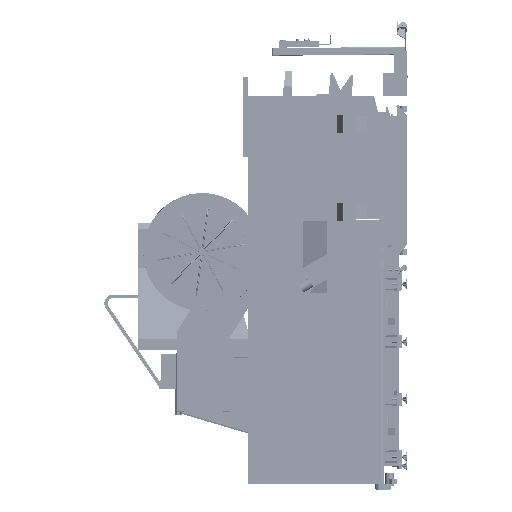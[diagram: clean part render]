
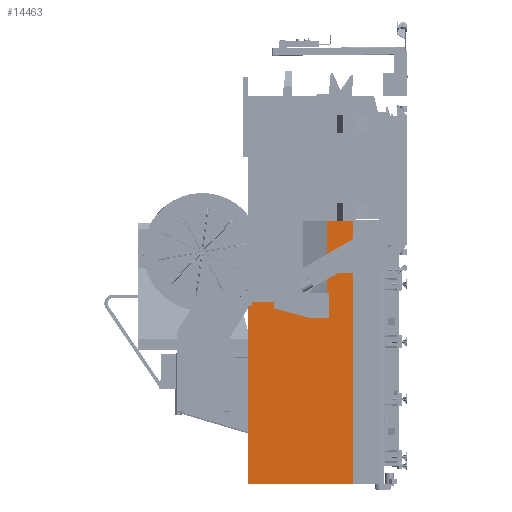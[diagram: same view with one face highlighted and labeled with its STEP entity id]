
A CAD part, left-side view. The second image highlights one B-rep face of the part: STEP entity #14463.
In plain terms, the highlighted planar face has unit normal (-1, 0, 0).
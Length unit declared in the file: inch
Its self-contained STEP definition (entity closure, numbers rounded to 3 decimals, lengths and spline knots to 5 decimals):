
#14463 = ADVANCED_FACE ( 'NONE', ( #257777 ), #52058, .T. ) ;
#28451 = LINE ( 'NONE', #32177, #134218 ) ;
#32177 = CARTESIAN_POINT ( 'NONE',  ( -31.6046, 24.01475, 70.875 ) ) ;
#45952 = LINE ( 'NONE', #166961, #170916 ) ;
#52058 = PLANE ( 'NONE',  #158259 ) ;
#64148 = LINE ( 'NONE', #206474, #243934 ) ;
#71781 = CARTESIAN_POINT ( 'NONE',  ( -31.6046, 64.5486, -66.1934 ) ) ;
#77893 = EDGE_CURVE ( 'NONE', #85172, #246002, #260573, .T. ) ;
#85172 = VERTEX_POINT ( 'NONE', #293305 ) ;
#85570 = DIRECTION ( 'NONE',  ( 0., 0., -1. ) ) ;
#89787 = VERTEX_POINT ( 'NONE', #363010 ) ;
#91964 = EDGE_CURVE ( 'NONE', #246002, #89787, #64148, .T. ) ;
#92243 = VERTEX_POINT ( 'NONE', #196557 ) ;
#101793 = VERTEX_POINT ( 'NONE', #217632 ) ;
#104221 = VECTOR ( 'NONE', #202811, 39.37008 ) ;
#106479 = CARTESIAN_POINT ( 'NONE',  ( -31.6046, 0., 28.5751 ) ) ;
#109291 = DIRECTION ( 'NONE',  ( 0., 0., 1. ) ) ;
#111551 = DIRECTION ( 'NONE',  ( 0., -1., 0. ) ) ;
#118686 = DIRECTION ( 'NONE',  ( 0., 1., 0. ) ) ;
#121793 = EDGE_CURVE ( 'NONE', #203389, #92243, #318265, .T. ) ;
#123222 = ORIENTED_EDGE ( 'NONE', *, *, #210261, .F. ) ;
#133830 = ORIENTED_EDGE ( 'NONE', *, *, #77893, .T. ) ;
#134218 = VECTOR ( 'NONE', #118686, 39.37008 ) ;
#141501 = VECTOR ( 'NONE', #85570, 39.37008 ) ;
#144982 = ORIENTED_EDGE ( 'NONE', *, *, #91964, .T. ) ;
#158016 = EDGE_LOOP ( 'NONE', ( #133830, #144982, #181563, #345587, #174850, #123222 ) ) ;
#158259 = AXIS2_PLACEMENT_3D ( 'NONE', #369302, #374996, #111551 ) ;
#166961 = CARTESIAN_POINT ( 'NONE',  ( -31.6046, 9.544, -66.1934 ) ) ;
#170916 = VECTOR ( 'NONE', #109291, 39.37008 ) ;
#174850 = ORIENTED_EDGE ( 'NONE', *, *, #121793, .T. ) ;
#175849 = CARTESIAN_POINT ( 'NONE',  ( -31.6046, 23.36398, 0. ) ) ;
#181563 = ORIENTED_EDGE ( 'NONE', *, *, #307192, .T. ) ;
#196557 = CARTESIAN_POINT ( 'NONE',  ( -31.6046, 23.36398, 28.5751 ) ) ;
#198751 = LINE ( 'NONE', #106479, #336963 ) ;
#202811 = DIRECTION ( 'NONE',  ( 0., 0., -1. ) ) ;
#203389 = VERTEX_POINT ( 'NONE', #212479 ) ;
#206474 = CARTESIAN_POINT ( 'NONE',  ( -31.6046, 9.544, -66.1934 ) ) ;
#210261 = EDGE_CURVE ( 'NONE', #85172, #92243, #198751, .T. ) ;
#212479 = CARTESIAN_POINT ( 'NONE',  ( -31.6046, 23.36398, 70.875 ) ) ;
#217632 = CARTESIAN_POINT ( 'NONE',  ( -31.6046, 9.544, 70.875 ) ) ;
#225723 = DIRECTION ( 'NONE',  ( 0., -1., 0. ) ) ;
#243934 = VECTOR ( 'NONE', #323788, 39.37008 ) ;
#246002 = VERTEX_POINT ( 'NONE', #71781 ) ;
#257777 = FACE_OUTER_BOUND ( 'NONE', #158016, .T. ) ;
#260573 = LINE ( 'NONE', #348975, #141501 ) ;
#293305 = CARTESIAN_POINT ( 'NONE',  ( -31.6046, 64.5486, 28.5751 ) ) ;
#307192 = EDGE_CURVE ( 'NONE', #89787, #101793, #45952, .T. ) ;
#318265 = LINE ( 'NONE', #175849, #104221 ) ;
#323788 = DIRECTION ( 'NONE',  ( 0., -1., 0. ) ) ;
#336963 = VECTOR ( 'NONE', #225723, 39.37008 ) ;
#343905 = EDGE_CURVE ( 'NONE', #101793, #203389, #28451, .T. ) ;
#345587 = ORIENTED_EDGE ( 'NONE', *, *, #343905, .T. ) ;
#348975 = CARTESIAN_POINT ( 'NONE',  ( -31.6046, 64.5486, 29.5951 ) ) ;
#363010 = CARTESIAN_POINT ( 'NONE',  ( -31.6046, 9.544, -66.1934 ) ) ;
#369302 = CARTESIAN_POINT ( 'NONE',  ( -31.6046, 0., 0. ) ) ;
#374996 = DIRECTION ( 'NONE',  ( -1., 0., 0. ) ) ;
